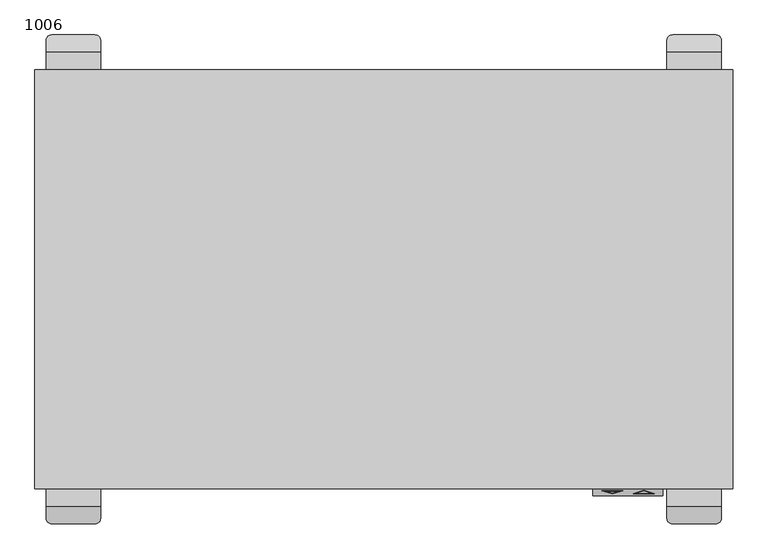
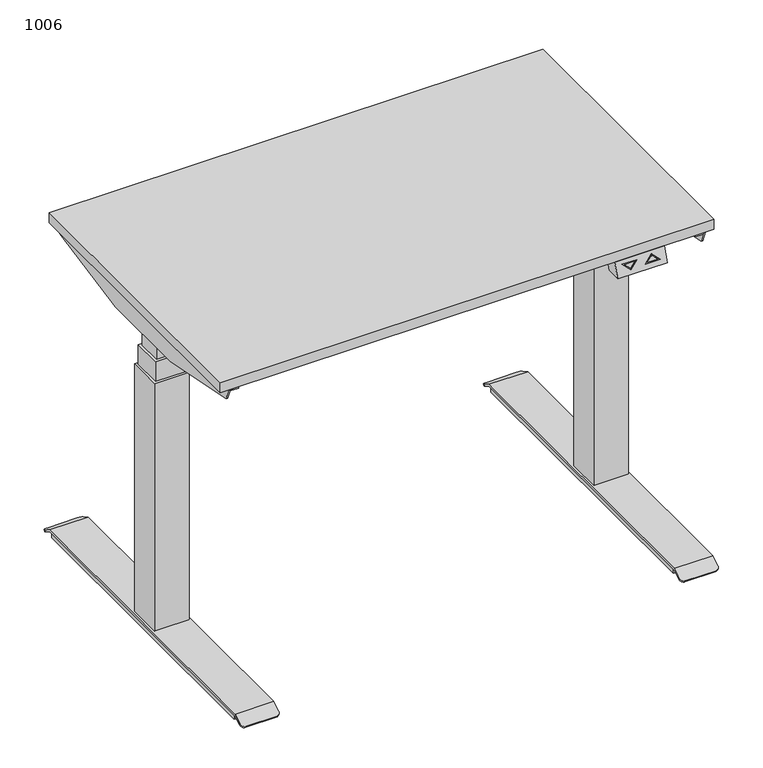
"""IFC4 building model written with IfcOpenShell, lengths in millimetres: furniture geometry, PINTA EQC : 1006."""

from ifc_helpers import new_model, si_unit, point, frame, frame_2d, origin, origin_with_axes, place, context, project, spatial, polyline, circle_curve, trimmed, segment, composite_curve, outline, extrude, faceted_brep, source, transform, mapped, element, save
from ifc_brep_helpers import plane_surface, cylinder_surface, advanced_brep


def furniture_1006_1aa1d17c(model_context):
    return source(origin(), model_context, "Body", "SolidModel", [
        faceted_brep([(300.0, -610.0, 668.0), (300.0, -580.0, 668.0), (400.0, -580.0, 668.0), (400.0, -610.0, 668.0), (300.0, -600.0, 698.0), (400.0, -600.0, 698.0), (400.0, -570.0, 698.0), (300.0, -570.0, 698.0), (312.5, -602.6491106, 690.0526681), (342.5, -602.6491106, 690.0526681), (327.5, -607.3925271, 675.8224186), (387.5, -606.9174824, 677.2475529), (357.5, -606.9174824, 677.2475529), (372.5, -602.1740659, 691.4778023), (327.5, -606.4980999, 678.5057002), (337.6715729, -603.2815662, 688.1553015), (317.3284271, -603.2815662, 688.1553015), (382.6715729, -606.2850268, 679.1449195), (372.5, -603.0684931, 688.7945208), (362.3284271, -606.2850268, 679.1449195), (342.5, -601.7004273, 689.7364403), (312.5, -601.7004273, 689.7364403), (327.5, -606.4438438, 675.5061908), (337.6715729, -602.3328829, 687.8390737), (327.5, -605.5494166, 678.1894724), (317.3284271, -602.3328829, 687.8390737), (357.5, -605.9687991, 676.9313251), (387.5, -605.9687991, 676.9313251), (372.5, -601.2253826, 691.1615746), (372.5, -602.1198098, 688.478293), (382.6715729, -605.3363436, 678.8286917), (362.3284271, -605.3363436, 678.8286917)], [[[0, 1, 2, 3]], [[4, 5, 6, 7]], [[1, 0, 4, 7]], [[3, 2, 6, 5]], [[0, 3, 5, 4], [8, 9, 10], [11, 12, 13]], [[14, 15, 16]], [[17, 18, 19]], [[2, 1, 7, 6]], [[20, 21, 22], [23, 24, 25]], [[26, 27, 28], [29, 30, 31]], [[21, 20, 9, 8]], [[22, 21, 8, 10]], [[20, 22, 10, 9]], [[27, 26, 12, 11]], [[28, 27, 11, 13]], [[26, 28, 13, 12]], [[24, 23, 15, 14]], [[25, 24, 14, 16]], [[23, 25, 16, 15]], [[30, 29, 18, 17]], [[31, 30, 17, 19]], [[29, 31, 19, 18]]]),
        extrude(outline(polyline([(-480.0, -219.7732113), (480.0, -219.7733158), (480.0, -239.7733158), (-480.0, -239.7732113), (-480.0, -219.7732113)])), frame((0.0, 0.0, 658.0), z_axis=(0.0, 0.0, 1.0), x_axis=(1.0, 0.0, 0.0)), (0.0, 0.0, 1.0), 40.0),
        extrude(outline(polyline([(-480.0, -359.7732114), (480.0, -359.7733158), (480.0, -379.7733158), (-480.0, -379.7732114), (-480.0, -359.7732114)])), frame((0.0, 0.0, 658.0), z_axis=(0.0, 0.0, 1.0), x_axis=(1.0, 0.0, 0.0)), (0.0, 0.0, 1.0), 40.0),
        extrude(outline(polyline([(-500.0, -600.0), (-500.0, 0.0), (500.0, 0.0), (500.0, -600.0), (-500.0, -600.0)])), frame((0.0, 0.0, 698.0), z_axis=(0.0, 0.0, 1.0), x_axis=(1.0, 0.0, 0.0)), (0.0, 0.0, 1.0), 22.0),
        advanced_brep(
        [(406.9772339, -620.0, 6.0), (406.9772339, -620.0, 16.0), (406.9772339, 20.0, 16.0), (406.9772339, 20.0, 6.0), (483.0227661, 20.0, 16.0), (483.0227661, 20.0, 6.0), (483.0227661, -620.0, 16.0), (483.0227661, -620.0, 6.0), (406.0, 25.0, 20.0), (406.0, 43.0199519, 9.908827), (406.0, 41.0655384, 6.4188029), (406.0, 23.9562578, 16.0), (406.0, -623.9562578, 16.0), (406.0, -641.0655384, 6.4188029), (406.0, -643.0199519, 9.908827), (406.0, -625.0, 20.0), (484.0, 23.9562578, 16.0), (484.0, 41.0655384, 6.4188029), (484.0, 43.0199519, 9.908827), (484.0, 25.0, 20.0), (484.0, -625.0, 20.0), (484.0, -643.0199519, 9.908827), (484.0, -641.0655384, 6.4188029), (484.0, -623.9562578, 16.0), (414.0, -650.0, 6.0), (476.0, -650.0, 6.0), (414.0, -648.0455865, 2.5099759), (476.0, -648.0455865, 2.5099759), (414.0, 48.0455865, 2.5099759), (476.0, 48.0455865, 2.5099759), (414.0, 50.0, 6.0), (476.0, 50.0, 6.0)],
        [
            (0, 1),
            (1, 2),
            (2, 3),
            (3, 0),
            (2, 4),
            (4, 5),
            (5, 3),
            (4, 6),
            (6, 7),
            (7, 5),
            (6, 1),
            (0, 7),
            (8, 9),
            (9, 10),
            (10, 11),
            (11, 12),
            (12, 13),
            (13, 14),
            (14, 15),
            (15, 8),
            (16, 17),
            (17, 18),
            (18, 19),
            (19, 20),
            (20, 21),
            (21, 22),
            (22, 23),
            (23, 16),
            (15, 20),
            (19, 8),
            (11, 16),
            (23, 12),
            (14, 24, circle_curve(frame((414.0, -643.0199519, 9.908827), z_axis=(0.0, -0.4886033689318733, 0.8725060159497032), x_axis=(0.0, 0.8725060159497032, 0.4886033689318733)), 8.0)),
            (24, 25),
            (25, 21, circle_curve(frame((476.0, -643.0199519, 9.908827), z_axis=(0.0, -0.4886033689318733, 0.8725060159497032), x_axis=(0.0, 0.8725060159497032, 0.4886033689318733)), 8.0)),
            (24, 26),
            (26, 27),
            (27, 25),
            (22, 27, circle_curve(frame((476.0, -641.0655384, 6.4188029), z_axis=(0.0, 0.4886033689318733, -0.8725060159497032), x_axis=(0.0, 0.8725060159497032, 0.4886033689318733)), 8.0)),
            (26, 13, circle_curve(frame((414.0, -641.0655384, 6.4188029), z_axis=(0.0, 0.4886033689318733, -0.8725060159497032), x_axis=(0.0, 0.8725060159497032, 0.4886033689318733)), 8.0)),
            (10, 28, circle_curve(frame((414.0, 41.0655384, 6.4188029), z_axis=(0.0, -0.4886033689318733, -0.8725060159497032), x_axis=(0.0, -0.8725060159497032, 0.4886033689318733)), 8.0)),
            (28, 29),
            (29, 17, circle_curve(frame((476.0, 41.0655384, 6.4188029), z_axis=(0.0, -0.4886033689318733, -0.8725060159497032), x_axis=(0.0, -0.8725060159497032, 0.4886033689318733)), 8.0)),
            (28, 30),
            (30, 31),
            (31, 29),
            (18, 31, circle_curve(frame((476.0, 43.0199519, 9.908827), z_axis=(0.0, 0.4886033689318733, 0.8725060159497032), x_axis=(0.0, -0.8725060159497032, 0.4886033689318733)), 8.0)),
            (30, 9, circle_curve(frame((414.0, 43.0199519, 9.908827), z_axis=(0.0, 0.4886033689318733, 0.8725060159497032), x_axis=(0.0, -0.8725060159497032, 0.4886033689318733)), 8.0)),
        ],
        [
            plane_surface(frame((406.9772339, -620.0, 16.0), z_axis=(-1.0, 0.0, 0.0), x_axis=(0.0, 0.0, -1.0))),
            plane_surface(frame((406.9772339, 20.0, 16.0), z_axis=(0.0, 1.0, 0.0), x_axis=(0.0, 0.0, -1.0))),
            plane_surface(frame((483.0227661, 20.0, 16.0), z_axis=(1.0, 0.0, 0.0), x_axis=(0.0, 0.0, -1.0))),
            plane_surface(frame((483.0227661, -620.0, 16.0), z_axis=(0.0, -1.0, 0.0), x_axis=(0.0, 0.0, -1.0))),
            plane_surface(frame((406.9772339, -623.4188232, 6.0), z_axis=(0.0, 0.0, -1.0), x_axis=(0.0, -1.0, 0.0))),
            plane_surface(frame((406.0, -300.0, 20.0), z_axis=(-1.0, 0.0, 0.0), x_axis=(0.0, -1.0, 0.0))),
            plane_surface(frame((484.0, -300.0, 20.0), z_axis=(1.0, 0.0, 0.0), x_axis=(0.0, 1.0, 0.0))),
            plane_surface(frame((406.0, 25.0, 20.0), z_axis=(0.0, 0.0, 1.0), x_axis=(1.0, 0.0, 0.0))),
            plane_surface(frame((406.0, -623.9562578, 16.0), z_axis=(0.0, 0.0, -1.0), x_axis=(1.0, 0.0, 0.0))),
            plane_surface(frame((406.0, -625.0, 20.0), z_axis=(0.0, -0.4886033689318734, 0.8725060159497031), x_axis=(1.0, 0.0, 0.0))),
            plane_surface(frame((406.0, -650.0, 6.0), z_axis=(0.0, -0.872506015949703, -0.4886033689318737), x_axis=(1.0, 0.0, 0.0))),
            plane_surface(frame((406.0, -648.0455865, 2.5099759), z_axis=(0.0, 0.4886033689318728, -0.8725060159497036), x_axis=(1.0, 0.0, 0.0))),
            plane_surface(frame((406.0, 23.9562578, 16.0), z_axis=(0.0, -0.4886033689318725, -0.8725060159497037), x_axis=(1.0, 0.0, 0.0))),
            plane_surface(frame((406.0, 48.0455865, 2.5099759), z_axis=(0.0, 0.8725060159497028, -0.48860336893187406), x_axis=(1.0, 0.0, 0.0))),
            plane_surface(frame((406.0, 50.0, 6.0), z_axis=(0.0, 0.48860336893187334, 0.8725060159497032), x_axis=(1.0, 0.0, 0.0))),
            cylinder_surface(frame((414.0, -643.0199519, 9.908827), z_axis=(0.0, -0.4886033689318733, 0.8725060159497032), x_axis=(0.0, 0.8725060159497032, 0.4886033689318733)), 8.0),
            cylinder_surface(frame((476.0, -643.0199519, 9.908827), z_axis=(0.0, -0.4886033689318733, 0.8725060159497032), x_axis=(0.0, 0.8725060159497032, 0.4886033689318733)), 8.0),
            cylinder_surface(frame((414.0, 43.0199519, 9.908827), z_axis=(0.0, 0.4886033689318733, 0.8725060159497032), x_axis=(0.0, -0.8725060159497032, 0.4886033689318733)), 8.0),
            cylinder_surface(frame((476.0, 43.0199519, 9.908827), z_axis=(0.0, 0.4886033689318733, 0.8725060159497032), x_axis=(0.0, -0.8725060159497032, 0.4886033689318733)), 8.0),
        ],
        [
            (0, [[1, 2, 3, 4]]),
            (1, [[-3, 5, 6, 7]]),
            (2, [[-6, 8, 9, 10]]),
            (3, [[-9, 11, -1, 12]]),
            (4, [[-4, -7, -10, -12]]),
            (5, [[13, 14, 15, 16, 17, 18, 19, 20]]),
            (6, [[21, 22, 23, 24, 25, 26, 27, 28]]),
            (7, [[29, -24, 30, -20]]),
            (8, [[31, -28, 32, -16], [-11, -8, -5, -2]]),
            (9, [[-19, 33, 34, 35, -25, -29]]),
            (10, [[36, 37, 38, -34]]),
            (11, [[-27, 39, -37, 40, -17, -32]]),
            (12, [[-15, 41, 42, 43, -21, -31]]),
            (13, [[44, 45, 46, -42]]),
            (14, [[-23, 47, -45, 48, -13, -30]]),
            (15, [[-40, -36, -33, -18]]),
            (16, [[-35, -38, -39, -26]]),
            (17, [[-48, -44, -41, -14]]),
            (18, [[-43, -46, -47, -22]]),
        ],
    ),
        faceted_brep([(279.4551307, -360.0, 698.0), (462.9996948, -360.0, 698.0), (462.9996948, -600.0, 698.0), (479.4551307, -600.0, 698.0), (483.0, -600.0, 698.0), (483.0, 0.0, 698.0), (479.4551307, 0.0, 698.0), (462.9996948, 0.0, 698.0), (462.9996948, -240.0, 698.0), (279.4551307, -240.0, 698.0), (279.4551307, -360.0, 635.2327881), (279.4551307, -240.0, 635.2327881), (479.4551307, -240.0, 635.2327881), (479.4551307, -203.8252348, 635.2327881), (483.0, -203.8252348, 635.2327881), (483.0, -396.1747652, 635.2327881), (479.4551307, -396.1747652, 635.2327881), (479.4551307, -360.0, 635.2327881), (462.9996948, -240.0, 694.9093018), (479.4551307, -240.0, 694.9093018), (479.4551307, -360.0, 694.9093018), (462.9996948, -360.0, 694.9093018), (479.4551307, -600.0, 694.9093018), (462.9996948, -600.0, 694.9093018), (479.4551307, 0.0, 694.9093018), (462.9996948, 0.0, 694.9093018), (479.4551307, -1.1249222, 694.9093018), (479.4551307, -598.8750778, 694.9093018), (479.4551307, -8.5505036, 674.5076845), (479.4551307, -591.4494964, 674.5076845), (483.0, -8.5505036, 674.5076845), (483.0, -591.4494964, 674.5076845)], [[[0, 1, 2, 3, 4, 5, 6, 7, 8, 9]], [[10, 11, 12, 13, 14, 15, 16, 17]], [[9, 11, 10, 0]], [[11, 9, 8, 18, 19, 12]], [[17, 20, 21, 1, 0, 10]], [[22, 3, 2, 23]], [[24, 25, 7, 6]], [[24, 26, 19, 18, 25]], [[23, 21, 20, 27, 22]], [[2, 1, 21, 23]], [[25, 18, 8, 7]], [[13, 12, 19, 26, 28]], [[29, 27, 20, 17, 16]], [[15, 14, 30, 5, 4, 31]], [[16, 15, 31, 29]], [[22, 27, 3]], [[6, 26, 24]], [[4, 3, 27, 29, 31]], [[28, 30, 14, 13]], [[30, 28, 26, 6, 5]]]),
        extrude(outline(composite_curve([segment(trimmed(circle_curve(frame_2d((445.0, -605.0)), 25.0), [point((470.0, -605.0))], [point((420.0, -605.0))], False, "CARTESIAN"), True, "CONTINUOUS"), segment(trimmed(circle_curve(frame_2d((445.0, -605.0)), 25.0), [point((420.0, -605.0))], [point((470.0, -605.0))], False, "CARTESIAN"), True, "CONTINUOUS")], self_intersect=False)), origin_with_axes(), (0.0, 0.0, 1.0), 6.0),
        extrude(outline(composite_curve([segment(trimmed(circle_curve(frame_2d((445.0, 5.0)), 25.0), [point((470.0, 5.0))], [point((420.0, 5.0))], False, "CARTESIAN"), True, "CONTINUOUS"), segment(trimmed(circle_curve(frame_2d((445.0, 5.0)), 25.0), [point((420.0, 5.0))], [point((470.0, 5.0))], False, "CARTESIAN"), True, "CONTINUOUS")], self_intersect=False)), origin_with_axes(), (0.0, 0.0, 1.0), 6.0),
        faceted_brep([(410.0, -265.0, 550.0), (410.0, -334.9621325, 550.0), (480.0, -334.9621325, 550.0), (480.0, -265.0, 550.0), (475.0, -270.0, 550.0), (475.0, -329.9621325, 550.0), (415.0, -329.9621325, 550.0), (415.0, -270.0, 550.0), (410.0, -265.0, 20.0), (480.0, -265.0, 20.0), (480.0, -334.9621325, 20.0), (410.0, -334.9621325, 20.0), (415.0, -270.0, 592.616394), (415.0, -329.9621325, 592.616394), (475.0, -329.9621325, 592.616394), (475.0, -270.0, 592.616394), (470.0, -275.0, 592.616394), (470.0, -324.9621325, 592.616394), (420.0, -324.9621325, 592.616394), (420.0, -275.0, 592.616394), (420.0, -275.0, 635.2327881), (420.0, -324.9621325, 635.2327881), (470.0, -324.9621325, 635.2327881), (470.0, -275.0, 635.2327881)], [[[0, 1, 2, 3], [4, 5, 6, 7]], [[8, 9, 10, 11]], [[3, 9, 8, 0]], [[2, 10, 9, 3]], [[1, 11, 10, 2]], [[0, 8, 11, 1]], [[12, 13, 14, 15], [16, 17, 18, 19]], [[15, 4, 7, 12]], [[14, 5, 4, 15]], [[13, 6, 5, 14]], [[12, 7, 6, 13]], [[20, 21, 22, 23]], [[23, 16, 19, 20]], [[22, 17, 16, 23]], [[21, 18, 17, 22]], [[20, 19, 18, 21]]]),
        advanced_brep(
        [(-406.9772339, -620.0, 6.0), (-406.9772339, 20.0, 6.0), (-406.9772339, 20.0, 16.0), (-406.9772339, -620.0, 16.0), (-483.0227661, 20.0, 6.0), (-483.0227661, 20.0, 16.0), (-483.0227661, -620.0, 6.0), (-483.0227661, -620.0, 16.0), (-406.0, 25.0, 20.0), (-406.0, -625.0, 20.0), (-406.0, -643.0199519, 9.908827), (-406.0, -641.0655384, 6.4188029), (-406.0, -623.9562578, 16.0), (-406.0, 23.9562578, 16.0), (-406.0, 41.0655384, 6.4188029), (-406.0, 43.0199519, 9.908827), (-484.0, 23.9562578, 16.0), (-484.0, -623.9562578, 16.0), (-484.0, -641.0655384, 6.4188029), (-484.0, -643.0199519, 9.908827), (-484.0, -625.0, 20.0), (-484.0, 25.0, 20.0), (-484.0, 43.0199519, 9.908827), (-484.0, 41.0655384, 6.4188029), (-476.0, -650.0, 6.0), (-414.0, -650.0, 6.0), (-476.0, -648.0455865, 2.5099759), (-414.0, -648.0455865, 2.5099759), (-476.0, 48.0455865, 2.5099759), (-414.0, 48.0455865, 2.5099759), (-476.0, 50.0, 6.0), (-414.0, 50.0, 6.0)],
        [
            (0, 1),
            (1, 2),
            (2, 3),
            (3, 0),
            (1, 4),
            (4, 5),
            (5, 2),
            (4, 6),
            (6, 7),
            (7, 5),
            (6, 0),
            (3, 7),
            (8, 9),
            (9, 10),
            (10, 11),
            (11, 12),
            (12, 13),
            (13, 14),
            (14, 15),
            (15, 8),
            (16, 17),
            (17, 18),
            (18, 19),
            (19, 20),
            (20, 21),
            (21, 22),
            (22, 23),
            (23, 16),
            (8, 21),
            (20, 9),
            (12, 17),
            (16, 13),
            (19, 24, circle_curve(frame((-476.0, -643.0199519, 9.908827), z_axis=(0.0, -0.4886033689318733, 0.8725060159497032), x_axis=(0.0, 0.8725060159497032, 0.4886033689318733)), 8.0)),
            (24, 25),
            (25, 10, circle_curve(frame((-414.0, -643.0199519, 9.908827), z_axis=(0.0, -0.4886033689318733, 0.8725060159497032), x_axis=(0.0, 0.8725060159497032, 0.4886033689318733)), 8.0)),
            (24, 26),
            (26, 27),
            (27, 25),
            (11, 27, circle_curve(frame((-414.0, -641.0655384, 6.4188029), z_axis=(0.0, 0.4886033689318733, -0.8725060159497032), x_axis=(0.0, 0.8725060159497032, 0.4886033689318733)), 8.0)),
            (26, 18, circle_curve(frame((-476.0, -641.0655384, 6.4188029), z_axis=(0.0, 0.4886033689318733, -0.8725060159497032), x_axis=(0.0, 0.8725060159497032, 0.4886033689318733)), 8.0)),
            (23, 28, circle_curve(frame((-476.0, 41.0655384, 6.4188029), z_axis=(0.0, -0.4886033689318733, -0.8725060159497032), x_axis=(0.0, -0.8725060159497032, 0.4886033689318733)), 8.0)),
            (28, 29),
            (29, 14, circle_curve(frame((-414.0, 41.0655384, 6.4188029), z_axis=(0.0, -0.4886033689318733, -0.8725060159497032), x_axis=(0.0, -0.8725060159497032, 0.4886033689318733)), 8.0)),
            (28, 30),
            (30, 31),
            (31, 29),
            (15, 31, circle_curve(frame((-414.0, 43.0199519, 9.908827), z_axis=(0.0, 0.4886033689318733, 0.8725060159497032), x_axis=(0.0, -0.8725060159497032, 0.4886033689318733)), 8.0)),
            (30, 22, circle_curve(frame((-476.0, 43.0199519, 9.908827), z_axis=(0.0, 0.4886033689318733, 0.8725060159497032), x_axis=(0.0, -0.8725060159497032, 0.4886033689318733)), 8.0)),
        ],
        [
            plane_surface(frame((-406.9772339, -620.0, 16.0), z_axis=(1.0, 0.0, 0.0), x_axis=(0.0, 0.0, -1.0))),
            plane_surface(frame((-406.9772339, 20.0, 16.0), z_axis=(0.0, 1.0, 0.0), x_axis=(0.0, 0.0, -1.0))),
            plane_surface(frame((-483.0227661, 20.0, 16.0), z_axis=(-1.0, 0.0, 0.0), x_axis=(0.0, 0.0, -1.0))),
            plane_surface(frame((-483.0227661, -620.0, 16.0), z_axis=(0.0, -1.0, 0.0), x_axis=(0.0, 0.0, -1.0))),
            plane_surface(frame((-406.9772339, -623.4188232, 6.0), z_axis=(0.0, 0.0, -1.0), x_axis=(0.0, -1.0, 0.0))),
            plane_surface(frame((-406.0, -300.0, 20.0), z_axis=(1.0, 0.0, 0.0), x_axis=(0.0, -1.0, 0.0))),
            plane_surface(frame((-484.0, -300.0, 20.0), z_axis=(-1.0, 0.0, 0.0), x_axis=(0.0, 1.0, 0.0))),
            plane_surface(frame((-406.0, 25.0, 20.0), z_axis=(0.0, 0.0, 1.0), x_axis=(-1.0, 0.0, 0.0))),
            plane_surface(frame((-406.0, -623.9562578, 16.0), z_axis=(0.0, 0.0, -1.0), x_axis=(-1.0, 0.0, 0.0))),
            plane_surface(frame((-406.0, -625.0, 20.0), z_axis=(0.0, -0.4886033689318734, 0.8725060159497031), x_axis=(-1.0, 0.0, 0.0))),
            plane_surface(frame((-406.0, -650.0, 6.0), z_axis=(0.0, -0.872506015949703, -0.4886033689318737), x_axis=(-1.0, 0.0, 0.0))),
            plane_surface(frame((-406.0, -648.0455865, 2.5099759), z_axis=(0.0, 0.4886033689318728, -0.8725060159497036), x_axis=(-1.0, 0.0, 0.0))),
            plane_surface(frame((-406.0, 23.9562578, 16.0), z_axis=(0.0, -0.4886033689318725, -0.8725060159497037), x_axis=(-1.0, 0.0, 0.0))),
            plane_surface(frame((-406.0, 48.0455865, 2.5099759), z_axis=(0.0, 0.8725060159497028, -0.48860336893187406), x_axis=(-1.0, 0.0, 0.0))),
            plane_surface(frame((-406.0, 50.0, 6.0), z_axis=(0.0, 0.48860336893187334, 0.8725060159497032), x_axis=(-1.0, 0.0, 0.0))),
            cylinder_surface(frame((-414.0, -643.0199519, 9.908827), z_axis=(0.0, -0.4886033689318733, 0.8725060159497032), x_axis=(0.0, 0.8725060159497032, 0.4886033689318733)), 8.0),
            cylinder_surface(frame((-476.0, -643.0199519, 9.908827), z_axis=(0.0, -0.4886033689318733, 0.8725060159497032), x_axis=(0.0, 0.8725060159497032, 0.4886033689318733)), 8.0),
            cylinder_surface(frame((-414.0, 43.0199519, 9.908827), z_axis=(0.0, 0.4886033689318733, 0.8725060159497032), x_axis=(0.0, -0.8725060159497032, 0.4886033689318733)), 8.0),
            cylinder_surface(frame((-476.0, 43.0199519, 9.908827), z_axis=(0.0, 0.4886033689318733, 0.8725060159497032), x_axis=(0.0, -0.8725060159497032, 0.4886033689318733)), 8.0),
        ],
        [
            (0, [[1, 2, 3, 4]]),
            (1, [[5, 6, 7, -2]]),
            (2, [[8, 9, 10, -6]]),
            (3, [[11, -4, 12, -9]]),
            (4, [[-11, -8, -5, -1]]),
            (5, [[13, 14, 15, 16, 17, 18, 19, 20]]),
            (6, [[21, 22, 23, 24, 25, 26, 27, 28]]),
            (7, [[-13, 29, -25, 30]]),
            (8, [[-17, 31, -21, 32], [-3, -7, -10, -12]]),
            (9, [[-30, -24, 33, 34, 35, -14]]),
            (10, [[-34, 36, 37, 38]]),
            (11, [[-31, -16, 39, -37, 40, -22]]),
            (12, [[-32, -28, 41, 42, 43, -18]]),
            (13, [[-42, 44, 45, 46]]),
            (14, [[-29, -20, 47, -45, 48, -26]]),
            (15, [[-15, -35, -38, -39]]),
            (16, [[-23, -40, -36, -33]]),
            (17, [[-19, -43, -46, -47]]),
            (18, [[-27, -48, -44, -41]]),
        ],
    ),
        faceted_brep([(-279.4551307, -360.0, 698.0), (-279.4551307, -240.0, 698.0), (-462.9996948, -240.0, 698.0), (-462.9996948, 0.0, 698.0), (-479.4551307, 0.0, 698.0), (-483.0, 0.0, 698.0), (-483.0, -600.0, 698.0), (-479.4551307, -600.0, 698.0), (-462.9996948, -600.0, 698.0), (-462.9996948, -360.0, 698.0), (-279.4551307, -360.0, 635.2327881), (-479.4551307, -360.0, 635.2327881), (-479.4551307, -396.1747652, 635.2327881), (-483.0, -396.1747652, 635.2327881), (-483.0, -203.8252348, 635.2327881), (-479.4551307, -203.8252348, 635.2327881), (-479.4551307, -240.0, 635.2327881), (-279.4551307, -240.0, 635.2327881), (-479.4551307, -240.0, 694.9093018), (-462.9996948, -240.0, 694.9093018), (-462.9996948, -360.0, 694.9093018), (-479.4551307, -360.0, 694.9093018), (-479.4551307, -600.0, 694.9093018), (-462.9996948, -600.0, 694.9093018), (-479.4551307, 0.0, 694.9093018), (-462.9996948, 0.0, 694.9093018), (-479.4551307, -598.8750778, 694.9093018), (-479.4551307, -1.1249222, 694.9093018), (-479.4551307, -591.4494964, 674.5076845), (-479.4551307, -8.5505036, 674.5076845), (-483.0, -591.4494964, 674.5076845), (-483.0, -8.5505036, 674.5076845)], [[[0, 1, 2, 3, 4, 5, 6, 7, 8, 9]], [[10, 11, 12, 13, 14, 15, 16, 17]], [[1, 0, 10, 17]], [[17, 16, 18, 19, 2, 1]], [[11, 10, 0, 9, 20, 21]], [[22, 23, 8, 7]], [[24, 4, 3, 25]], [[23, 22, 26, 21, 20]], [[24, 25, 19, 18, 27]], [[8, 23, 20, 9]], [[25, 3, 2, 19]], [[28, 12, 11, 21, 26]], [[15, 29, 27, 18, 16]], [[13, 30, 6, 5, 31, 14]], [[12, 28, 30, 13]], [[22, 7, 26]], [[4, 24, 27]], [[6, 30, 28, 26, 7]], [[29, 15, 14, 31]], [[31, 5, 4, 27, 29]]]),
        extrude(outline(composite_curve([segment(trimmed(circle_curve(frame_2d((-445.0, -605.0)), 25.0), [point((-470.0, -605.0))], [point((-420.0, -605.0))], False, "CARTESIAN"), True, "CONTINUOUS"), segment(trimmed(circle_curve(frame_2d((-445.0, -605.0)), 25.0), [point((-420.0, -605.0))], [point((-470.0, -605.0))], False, "CARTESIAN"), True, "CONTINUOUS")], self_intersect=False)), origin_with_axes(), (0.0, 0.0, 1.0), 6.0),
        extrude(outline(composite_curve([segment(trimmed(circle_curve(frame_2d((-445.0, 5.0)), 25.0), [point((-470.0, 5.0))], [point((-420.0, 5.0))], False, "CARTESIAN"), True, "CONTINUOUS"), segment(trimmed(circle_curve(frame_2d((-445.0, 5.0)), 25.0), [point((-420.0, 5.0))], [point((-470.0, 5.0))], False, "CARTESIAN"), True, "CONTINUOUS")], self_intersect=False)), origin_with_axes(), (0.0, 0.0, 1.0), 6.0),
        faceted_brep([(-410.0, -265.0, 550.0), (-480.0, -265.0, 550.0), (-480.0, -334.9621325, 550.0), (-410.0, -334.9621325, 550.0), (-475.0, -270.0, 550.0), (-415.0, -270.0, 550.0), (-415.0, -329.9621325, 550.0), (-475.0, -329.9621325, 550.0), (-410.0, -265.0, 20.0), (-410.0, -334.9621325, 20.0), (-480.0, -334.9621325, 20.0), (-480.0, -265.0, 20.0), (-415.0, -270.0, 592.616394), (-475.0, -270.0, 592.616394), (-475.0, -329.9621325, 592.616394), (-415.0, -329.9621325, 592.616394), (-470.0, -275.0, 592.616394), (-420.0, -275.0, 592.616394), (-420.0, -324.9621325, 592.616394), (-470.0, -324.9621325, 592.616394), (-420.0, -275.0, 635.2327881), (-470.0, -275.0, 635.2327881), (-470.0, -324.9621325, 635.2327881), (-420.0, -324.9621325, 635.2327881)], [[[0, 1, 2, 3], [4, 5, 6, 7]], [[8, 9, 10, 11]], [[1, 0, 8, 11]], [[2, 1, 11, 10]], [[3, 2, 10, 9]], [[0, 3, 9, 8]], [[12, 13, 14, 15], [16, 17, 18, 19]], [[13, 12, 5, 4]], [[14, 13, 4, 7]], [[15, 14, 7, 6]], [[12, 15, 6, 5]], [[20, 21, 22, 23]], [[21, 20, 17, 16]], [[22, 21, 16, 19]], [[23, 22, 19, 18]], [[20, 23, 18, 17]]]),
    ])


if __name__ == "__main__":
    model = new_model("IFC4")
    model_context = context("Model", 3, world=origin())
    ifc_project = project(units=[si_unit("LENGTHUNIT", "METRE", prefix="MILLI")], contexts=[model_context])
    site = spatial("IfcSite", under=ifc_project)
    building = spatial("IfcBuilding", under=site)
    placement = place(None, origin())
    furniture_1006_shape = furniture_1006_1aa1d17c(model_context)
    element("IfcFurniture", 1, ObjectType="PINTA EQC : 1006", at=placement, inside=building, context=model_context, shape_type="MappedRepresentation", body=[
        mapped(furniture_1006_shape, transform((0.0, 0.0, 0.0), x_axis=(1.0, 0.0, 0.0), y_axis=(0.0, 1.0, 0.0), z_axis=(0.0, 0.0, 1.0))),
    ])
    save(model, "model.ifc")
